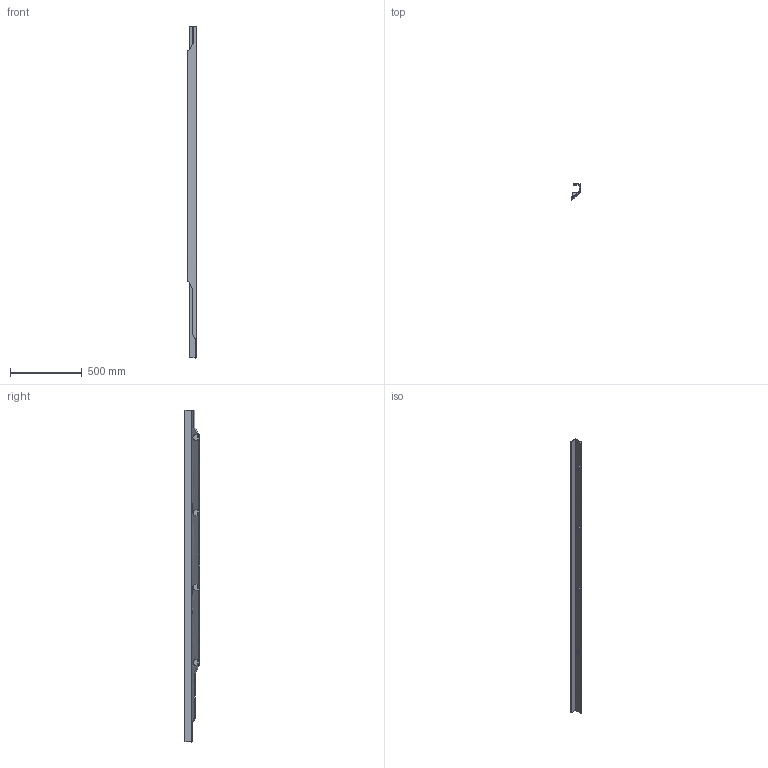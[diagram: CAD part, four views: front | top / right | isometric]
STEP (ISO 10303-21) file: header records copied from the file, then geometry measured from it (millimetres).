
FILE_DESCRIPTION(/* description */ (''),/* implementation_level */ '2;1');
FILE_NAME(/* name */ 'bar_1_right',/* time_stamp */ '2018-02-20T19:22:38+01:00',/* author */ (''),/* organization */ (''),/* preprocessor_version */ 'ST-DEVELOPER v14',/* originating_system */ '',/* authorisation */ '');
FILE_SCHEMA (('CONFIG_CONTROL_DESIGN'));
Length unit declared in the file: millimetre
Products named in the file (1): Document
Bounding box: 57 x 109.98 x 2315.05 mm (x, y, z)
Volume: 2235377.3 mm3; surface area: 754182.4 mm2
Topology: 1 solids, 1 shells, 46 faces, 118 edges, 74 vertices
Faces by surface type: bspline 33, plane 13
Entity records: 5994 total; most frequent: CARTESIAN_POINT 5211, ORIENTED_EDGE 236, EDGE_CURVE 118, VERTEX_POINT 74, B_SPLINE_CURVE_WITH_KNOTS 73, ADVANCED_FACE 46, FACE_OUTER_BOUND 46, EDGE_LOOP 46
